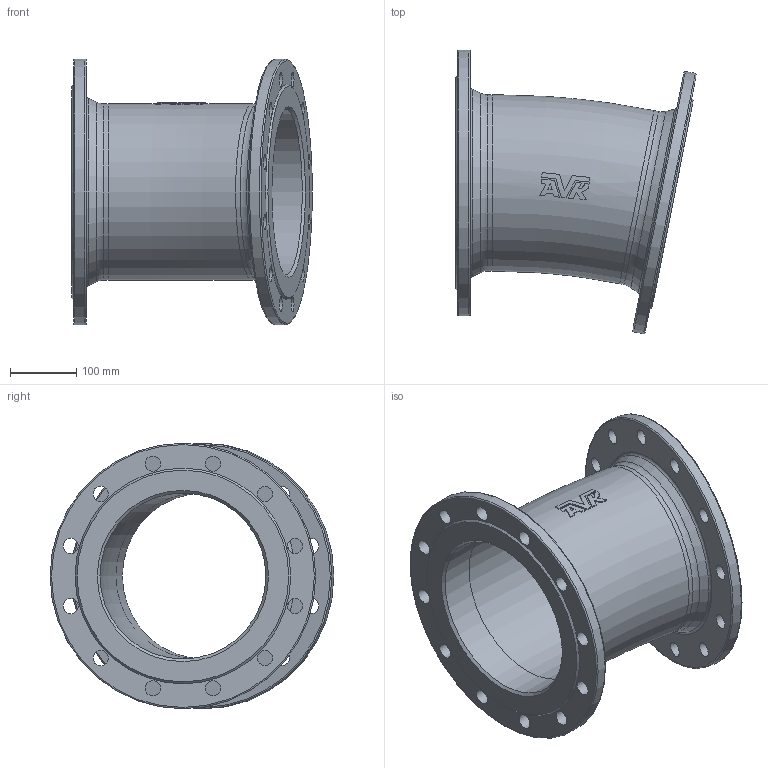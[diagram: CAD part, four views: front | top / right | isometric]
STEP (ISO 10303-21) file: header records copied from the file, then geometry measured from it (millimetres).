
FILE_DESCRIPTION (( 'STEP AP203' ), '1' );
FILE_NAME ('O_712_0110_DN250_0X_REV01.step', '2024-08-15T08:50:45', ( '' ), ( '' ), 'SwSTEP 2.0', 'SolidWorks 2022', '' );
FILE_SCHEMA (( 'CONFIG_CONTROL_DESIGN' ));
Length unit declared in the file: millimetre
Products named in the file (1): O_712_0110_DN250_0X_REV01
Bounding box: 362.55 x 427.4 x 400 mm (x, y, z)
Volume: 4922321.8 mm3; surface area: 833343.3 mm2
Topology: 1 solids, 1 shells, 93 faces, 264 edges, 181 vertices
Faces by surface type: plane 41, cylinder 32, torus 14, cone 6
Full cylindrical faces by diameter (mm): 23 x24, 250 x2, 266 x2, 400 x2
Entity records: 2876 total; most frequent: CARTESIAN_POINT 733, DIRECTION 377, ORIENTED_EDGE 374, EDGE_LOOP 197, EDGE_CURVE 187, AXIS2_PLACEMENT_3D 170, VERTEX_POINT 150, FACE_OUTER_BOUND 133
